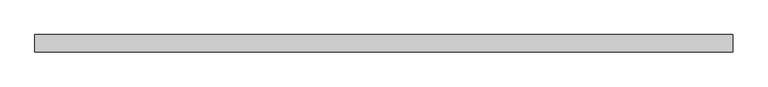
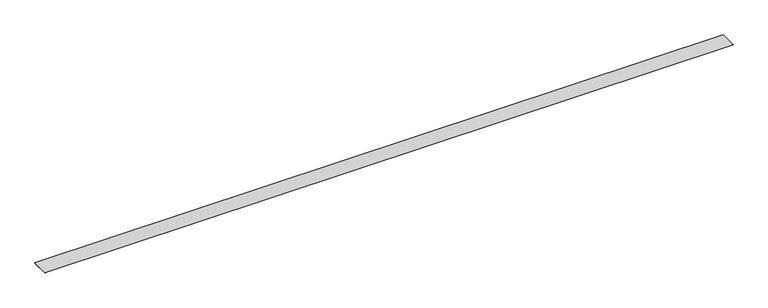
"""IFC4 building model written with IfcOpenShell, lengths in millimetres: proxy geometry, Sika® CarboDur® M914 : Sika® CarboDur® S1012."""

import ifcopenshell
import ifcopenshell.guid

model = None  # the IFC model being written
_history = None  # IfcOwnerHistory: only IFC2X3 demands one
_inside = {}  # id of a spatial element -> (the spatial element, [elements in it])
_under = {}  # id of a project, library or spatial element -> (it, [spatial elements below it])
_declared = {}  # id of a project -> (the project, [libraries it declares])
_typed = {}  # id of a type object -> (the type object, [elements of that type])
_made_of = {}  # id of a material, layer set ... -> (it, [elements and type objects made of it])


def new_model(schema):
    """Start an empty IFC model of exactly this schema.

    Asked for "IFC4X3", IfcOpenShell would pick the latest addendum, in which some entities
    have other attributes; the version numbers below select the first issue.
    IFC2X3 requires an IfcOwnerHistory on every rooted entity: one is made here for all.
    """
    global model, _history
    if schema == "IFC4X3":
        model = ifcopenshell.file(schema_version=(4, 3, 0, 0))
    else:
        model = ifcopenshell.file(schema=schema)
    _inside.clear()
    _under.clear()
    _declared.clear()
    _typed.clear()
    _made_of.clear()
    _history = None
    if model.schema == "IFC2X3":
        org = make("IfcOrganization", Name="unknown")
        user = make(
            "IfcPersonAndOrganization",
            ThePerson=make("IfcPerson", FamilyName="unknown"),
            TheOrganization=org,
        )
        app = make(
            "IfcApplication",
            ApplicationDeveloper=org,
            Version="unknown",
            ApplicationFullName="unknown",
            ApplicationIdentifier="unknown",
        )
        _history = make(
            "IfcOwnerHistory",
            OwningUser=user,
            OwningApplication=app,
            ChangeAction="ADDED",
            CreationDate=0,
        )
    return model


def make(cls, **values):
    """One entity of the class cls with the attributes given. An attribute that is None is left unset."""
    return model.create_entity(
        cls, **{name: value for name, value in values.items() if value is not None}
    )


def rooted(cls, **values):
    """An entity with a GlobalId (a new one), such as an element, a storey or a relation."""
    return make(cls, GlobalId=ifcopenshell.guid.new(), OwnerHistory=_history, **values)


def si_unit(unit_type, name, prefix=None):
    """IfcSIUnit, for example si_unit("LENGTHUNIT", "METRE", prefix="MILLI")."""
    return make("IfcSIUnit", UnitType=unit_type, Prefix=prefix, Name=name)


def assignment(units):
    """IfcUnitAssignment: the units of a project."""
    return None if units is None else make("IfcUnitAssignment", Units=units)


def point(xyz):
    """IfcCartesianPoint."""
    return None if xyz is None else make("IfcCartesianPoint", Coordinates=xyz)


def direction(xyz):
    """IfcDirection."""
    return None if xyz is None else make("IfcDirection", DirectionRatios=xyz)


def frame(location, z_axis=None, x_axis=None):
    """IfcAxis2Placement3D, a coordinate frame: its origin and axes. An axis left out is left unset."""
    return make(
        "IfcAxis2Placement3D",
        Location=point(location),
        Axis=direction(z_axis),
        RefDirection=direction(x_axis),
    )


def origin():
    """The frame at (0, 0, 0) with its axes left unset."""
    return frame((0.0, 0.0, 0.0))


def origin_with_axes():
    """The frame at (0, 0, 0) with the z axis (0, 0, 1) and the x axis (1, 0, 0) written out."""
    return frame((0.0, 0.0, 0.0), z_axis=(0.0, 0.0, 1.0), x_axis=(1.0, 0.0, 0.0))


def place(relative_to, where):
    """IfcLocalPlacement: puts the frame where relative to a parent placement (None: the world)."""
    return make(
        "IfcLocalPlacement", PlacementRelTo=relative_to, RelativePlacement=where
    )


def context(
    kind, dimensions, precision=None, world=None, true_north=None, identifier=None
):
    """IfcGeometricRepresentationContext, for example the 3D "Model" context."""
    return make(
        "IfcGeometricRepresentationContext",
        ContextIdentifier=identifier,
        ContextType=kind,
        CoordinateSpaceDimension=dimensions,
        Precision=precision,
        WorldCoordinateSystem=world,
        TrueNorth=true_north,
    )


def project(units=None, contexts=None):
    """IfcProject with its units and contexts."""
    return rooted(
        "IfcProject",
        Name="project",
        RepresentationContexts=contexts,
        UnitsInContext=assignment(units),
    )


def spatial(cls, under=None, at=None, **own):
    """A site, building, storey or space (cls), placed at a placement, below another one or the project."""
    s = rooted(cls, ObjectPlacement=at, **own)
    if under is not None:
        _under.setdefault(under.id(), (under, []))[1].append(s)
    return s


def polyline(points):
    """IfcPolyline through the points."""
    return make("IfcPolyline", Points=[point(p) for p in points])


def outline(outer, holes=None, kind="AREA"):
    """IfcArbitraryClosedProfileDef: a profile drawn as a closed curve; with holes, ...WithVoids."""
    if holes is None:
        return make("IfcArbitraryClosedProfileDef", ProfileType=kind, OuterCurve=outer)
    return make(
        "IfcArbitraryProfileDefWithVoids",
        ProfileType=kind,
        OuterCurve=outer,
        InnerCurves=holes,
    )


def extrude(swept, where, along, depth):
    """IfcExtrudedAreaSolid: the profile swept, set in the frame where, extruded along a direction by depth."""
    return make(
        "IfcExtrudedAreaSolid",
        SweptArea=swept,
        Position=where,
        ExtrudedDirection=direction(along),
        Depth=depth,
    )


def shape(context_of_items, identifier, shape_type, items):
    """IfcShapeRepresentation: the items that make up one representation, for example the "Body"."""
    return make(
        "IfcShapeRepresentation",
        ContextOfItems=context_of_items,
        RepresentationIdentifier=identifier,
        RepresentationType=shape_type,
        Items=items,
    )


def source(mapping_origin, context_of_items, identifier, shape_type, items):
    """IfcRepresentationMap: a shape defined once, which mapped items show again and again."""
    return make(
        "IfcRepresentationMap",
        MappingOrigin=mapping_origin,
        MappedRepresentation=shape(context_of_items, identifier, shape_type, items),
    )


def transform(
    local_origin,
    x_axis=None,
    y_axis=None,
    z_axis=None,
    scale=None,
    scale2=None,
    scale3=None,
    uniform=True,
):
    """IfcCartesianTransformationOperator3D, or its non-uniform kind. x_axis, y_axis, z_axis: its Axis1, 2, 3."""
    if uniform:
        return make(
            "IfcCartesianTransformationOperator3D",
            Axis1=direction(x_axis),
            Axis2=direction(y_axis),
            LocalOrigin=point(local_origin),
            Scale=scale,
            Axis3=direction(z_axis),
        )
    return make(
        "IfcCartesianTransformationOperator3DnonUniform",
        Axis1=direction(x_axis),
        Axis2=direction(y_axis),
        LocalOrigin=point(local_origin),
        Scale=scale,
        Axis3=direction(z_axis),
        Scale2=scale2,
        Scale3=scale3,
    )


def mapped(mapping_source, mapping_target):
    """IfcMappedItem: shows the shape of a source again, moved by a transform."""
    return make(
        "IfcMappedItem", MappingSource=mapping_source, MappingTarget=mapping_target
    )


def made_of(thing, what):
    """Note that an element or type object is made of a material, layer set ...; save() writes the relation."""
    if what is not None:
        _made_of.setdefault(what.id(), (what, []))[1].append(thing)
    return thing


def element(
    cls,
    number,
    at=None,
    inside=None,
    cuts=None,
    type_object=None,
    material=None,
    context=None,
    identifier="Body",
    shape_type=None,
    held_by="IfcProductDefinitionShape",
    body=None,
    shapes=None,
    **own,
):
    """One element of the class cls, such as IfcWall. Its Tag is "e" and its number.

    at: its placement. inside: the storey or other place that contains it. cuts: it is an
    opening in that element (IfcRelVoidsElement). A single representation is given by context,
    identifier, shape_type and body (its items); several are given by shapes. held_by: the class
    of the entity that holds the representations. save() writes the other relations.
    """
    e = rooted(cls, Tag="e%d" % number, ObjectPlacement=at, **own)
    if body is not None:
        shapes = [shape(context, identifier, shape_type, body)]
    if shapes is not None:
        e.Representation = make(held_by, Representations=shapes)
    if inside is not None:
        _inside.setdefault(inside.id(), (inside, []))[1].append(e)
    if cuts is not None:
        rooted(
            "IfcRelVoidsElement", RelatingBuildingElement=cuts, RelatedOpeningElement=e
        )
    if type_object is not None:
        _typed.setdefault(type_object.id(), (type_object, []))[1].append(e)
    return made_of(e, material)


def aggregate(whole, parts):
    """IfcRelAggregates: a whole, such as a stair, and the parts it consists of."""
    return rooted("IfcRelAggregates", RelatingObject=whole, RelatedObjects=parts)


def save(model, path):
    """Write the relations noted so far, then the file.

    IfcRelAggregates (storeys below a building ...), IfcRelContainedInSpatialStructure (elements
    in a storey), IfcRelDefinesByType, IfcRelAssociatesMaterial and IfcRelDeclares: one each for
    every whole, place, type object, material and project.
    """
    for whole, parts in _under.values():
        aggregate(whole, parts)
    for where, things in _inside.values():
        rooted(
            "IfcRelContainedInSpatialStructure",
            RelatedElements=things,
            RelatingStructure=where,
        )
    for kind, things in _typed.values():
        rooted("IfcRelDefinesByType", RelatedObjects=things, RelatingType=kind)
    for what, things in _made_of.values():
        rooted("IfcRelAssociatesMaterial", RelatedObjects=things, RelatingMaterial=what)
    for by, libraries in _declared.values():
        rooted("IfcRelDeclares", RelatingContext=by, RelatedDefinitions=libraries)
    model.write(path)


def generic_models_d5077565(model_context):
    return source(origin(), model_context, "Body", "SweptSolid", [
        extrude(outline(polyline([(2011.6805461, 50.0), (2011.6805461, -50.0), (-2011.6805461, -50.0), (-2011.6805461, 50.0), (2011.6805461, 50.0)])), origin_with_axes(), (0.0, 0.0, 1.0), 1.2),
    ])


if __name__ == "__main__":
    model = new_model("IFC4")
    model_context = context("Model", 3, world=origin())
    ifc_project = project(units=[si_unit("LENGTHUNIT", "METRE", prefix="MILLI")], contexts=[model_context])
    site = spatial("IfcSite", under=ifc_project)
    building = spatial("IfcBuilding", under=site)
    placement = place(None, origin())
    generic_models_shape = generic_models_d5077565(model_context)
    element("IfcBuildingElementProxy", 1, Name="Sika® CarboDur® M914 : Sika® CarboDur® S1012", ObjectType="Sika® CarboDur® M914 : Sika® CarboDur® S1012", at=placement, inside=building, context=model_context, shape_type="MappedRepresentation", body=[
        mapped(generic_models_shape, transform((0.0, 0.0, 0.0), x_axis=(1.0, 0.0, 0.0), y_axis=(0.0, 1.0, 0.0), z_axis=(0.0, 0.0, 1.0))),
    ])
    save(model, "model.ifc")
